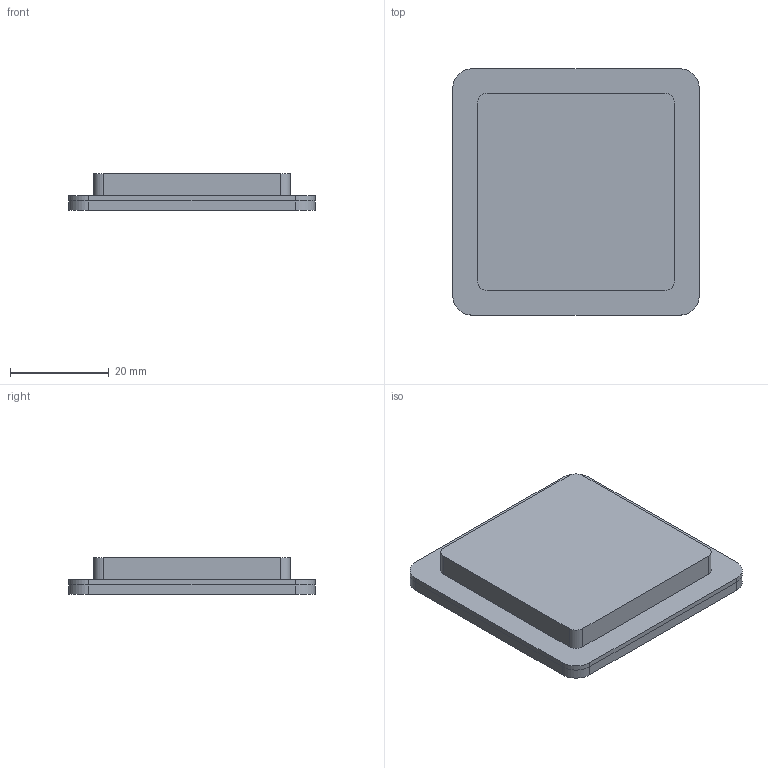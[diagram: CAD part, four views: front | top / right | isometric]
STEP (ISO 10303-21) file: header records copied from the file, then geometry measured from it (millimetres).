
FILE_DESCRIPTION(('FreeCAD Model'),'2;1');
FILE_NAME('/home/delta/Dokumente/Entwickung/Eigene/Alt/Thingiverse/delta mount/deltaMount.step','2019-05-18T05:13:37',('Author'),(''), 'Open CASCADE STEP processor 7.3','FreeCAD','Unknown');
FILE_SCHEMA(('AUTOMOTIVE_DESIGN { 1 0 10303 214 1 1 1 1 }'));
Length unit declared in the file: millimetre
Products named in the file (4): object_to_be_fixed001; cylinder001; Quick_release_plate_for_gluing001; Quick-release_plate_for_screwing001
Bounding box: 50 x 50 x 7.5 mm (x, y, z)
Volume: 16462.2 mm3; surface area: 15680.1 mm2
Topology: 4 solids, 4 shells, 159 faces, 420 edges, 282 vertices
Faces by surface type: plane 125, cylinder 32, cone 2
Full cylindrical faces by diameter (mm): 4.2 x2, 6 x2
Entity records: 10593 total; most frequent: CARTESIAN_POINT 2008, DIRECTION 1595, LINE 1130, VECTOR 1130, ORIENTED_EDGE 840, PCURVE 840, DEFINITIONAL_REPRESENTATION 840, EDGE_CURVE 420
